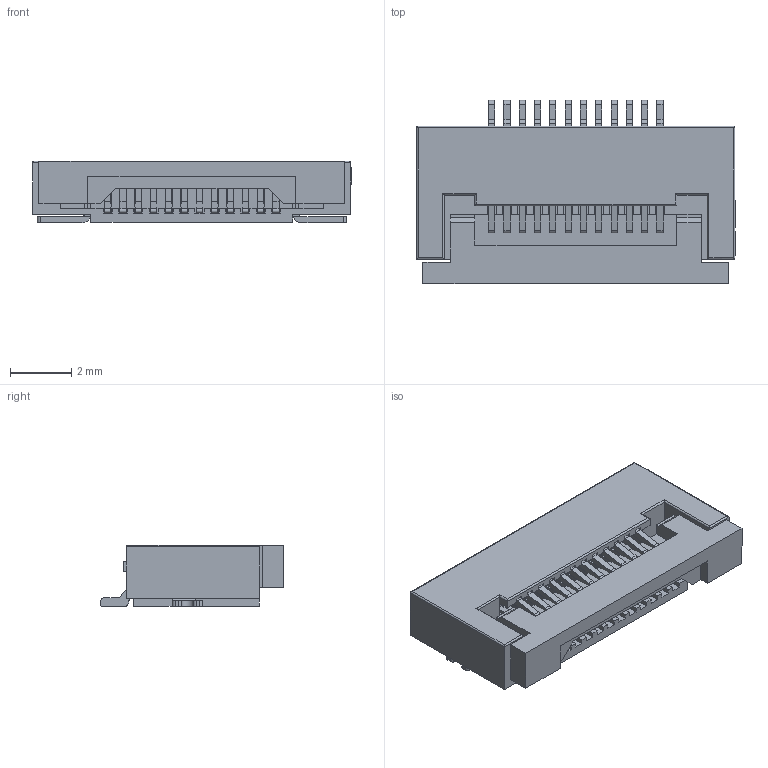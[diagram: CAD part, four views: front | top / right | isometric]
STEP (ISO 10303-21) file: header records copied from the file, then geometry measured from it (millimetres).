
FILE_DESCRIPTION (( 'STEP AP214' ), '1' );
FILE_NAME ('FPC-SMD_12P-P0.50_HC-FPC-0.5-12P-FH20.STEP', '2023-12-03T02:49:32', ( '' ), ( '' ), 'SwSTEP 2.0', 'SolidWorks 2020', '' );
FILE_SCHEMA (( 'AUTOMOTIVE_DESIGN' ));
Length unit declared in the file: millimetre
Products named in the file (1): FPC-SMD_12P-P0.50_HC-FPC-0.5-12P-FH20
Bounding box: 10.41 x 6 x 2.02 mm (x, y, z)
Volume: 66.3 mm3; surface area: 439.7 mm2
Topology: 16 solids, 16 shells, 788 faces, 2243 edges, 1480 vertices
Faces by surface type: plane 590, cylinder 100, bspline 98
Entity records: 34671 total; most frequent: CARTESIAN_POINT 5854, ORIENTED_EDGE 4486, DIRECTION 3593, EDGE_CURVE 2243, VECTOR 1851, LINE 1851, VERTEX_POINT 1480, AXIS2_PLACEMENT_3D 871
